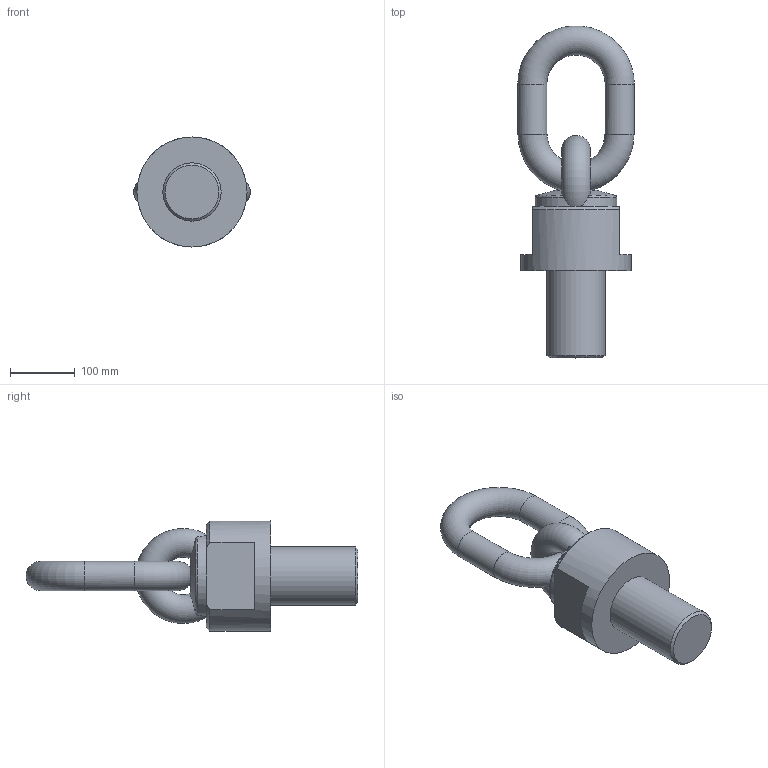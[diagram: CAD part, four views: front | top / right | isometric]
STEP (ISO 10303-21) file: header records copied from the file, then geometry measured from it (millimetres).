
FILE_DESCRIPTION( ( 'STEP AP203' ), '1' );
FILE_NAME( 'p:/temp/worker_18/temp/app_55_0201906261459019950778210e898ce_000000_00_00_000000/format_0/C800X40090135.stp', '2019-06-26T12:59:02', ( '' ), ( '' ), ' ', 'PARTsolutions', ' ' );
FILE_SCHEMA( ( 'CONFIG_CONTROL_DESIGN' ) );
Length unit declared in the file: millimetre
Products named in the file (1): _C800X40090135
Bounding box: 180 x 512.79 x 170 mm (x, y, z)
Volume: 4396715.9 mm3; surface area: 243891.3 mm2
Topology: 1 solids, 1 shells, 28 faces, 70 edges, 44 vertices
Faces by surface type: plane 12, cylinder 6, torus 5, cone 5
Full cylindrical faces by diameter (mm): 45 x2, 90 x1, 170 x1
Entity records: 1289 total; most frequent: CARTESIAN_POINT 639, DIRECTION 122, ORIENTED_EDGE 116, EDGE_CURVE 58, AXIS2_PLACEMENT_3D 57, EDGE_LOOP 42, VERTEX_POINT 41, FACE_OUTER_BOUND 35
